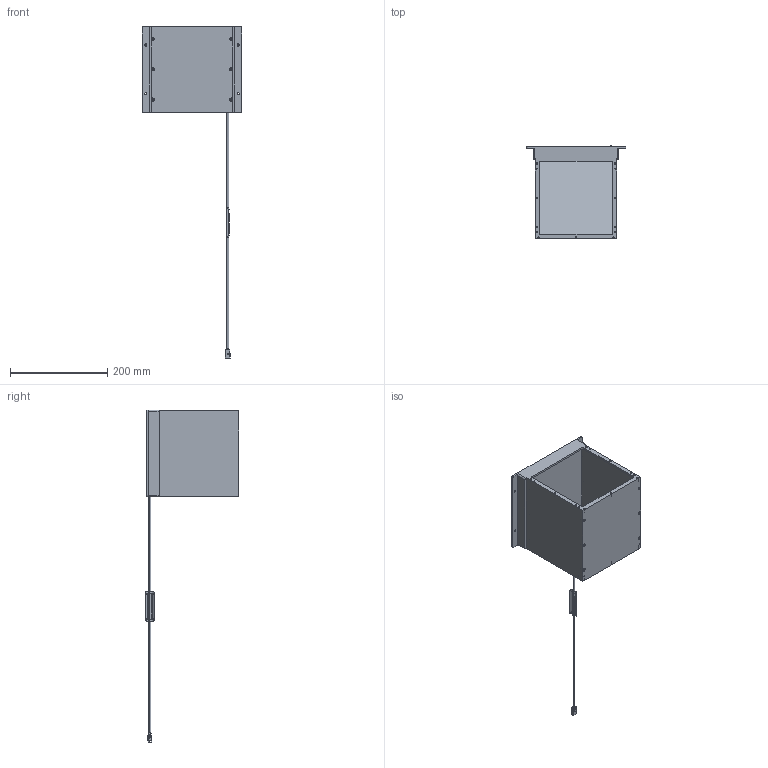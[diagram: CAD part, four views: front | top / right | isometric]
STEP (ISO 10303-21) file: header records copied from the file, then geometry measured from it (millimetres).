
FILE_DESCRIPTION (( 'STEP AP203' ), '1' );
FILE_NAME ('A22952A0000101A.STEP', '2017-07-10T07:34:51', ( '' ), ( '' ), 'SwSTEP 2.0', 'SolidWorks 2014', '' );
FILE_SCHEMA (( 'CONFIG_CONTROL_DESIGN' ));
Length unit declared in the file: millimetre
Products named in the file (1): A22952A0000101A
Bounding box: 204 x 192.95 x 681.49 mm (x, y, z)
Volume: 1421885.5 mm3; surface area: 412323.3 mm2
Topology: 5 solids, 59 shells, 1940 faces, 4825 edges, 2946 vertices
Faces by surface type: plane 926, cone 472, cylinder 367, bspline 153, torus 22
Entity records: 62570 total; most frequent: CARTESIAN_POINT 19189, ORIENTED_EDGE 9418, DIRECTION 8425, EDGE_CURVE 4709, AXIS2_PLACEMENT_3D 3346, VERTEX_POINT 2946, EDGE_LOOP 2079, ADVANCED_FACE 1940
